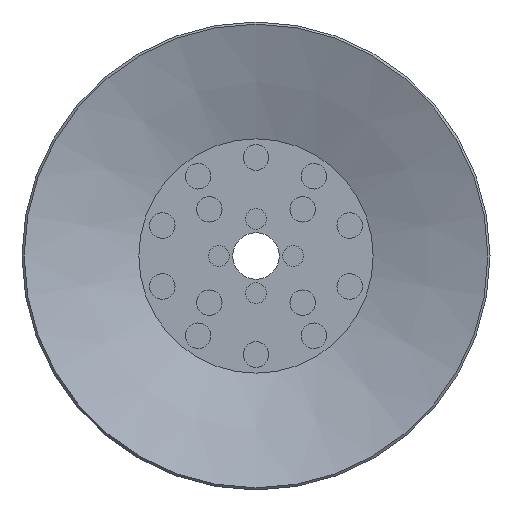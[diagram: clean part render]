
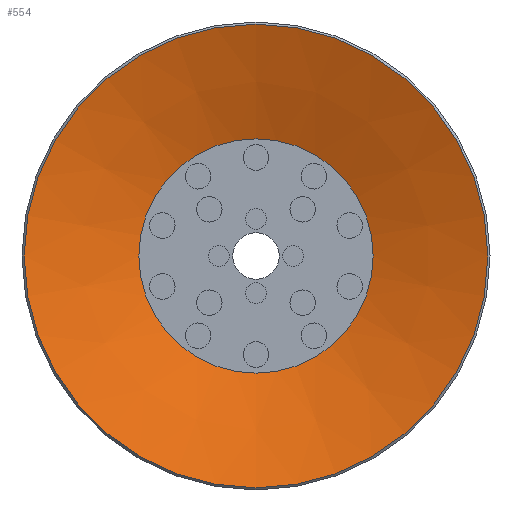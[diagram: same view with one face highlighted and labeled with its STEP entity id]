
A CAD part, front view. The second image highlights one B-rep face of the part: STEP entity #554.
In plain terms, the highlighted conical face has half-angle 70 degrees and reference radius 10 mm.
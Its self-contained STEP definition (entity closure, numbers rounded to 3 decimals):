
#554=ADVANCED_FACE('',(#850,#851),#852,.F.);
#850=FACE_BOUND('',#1255,.T.);
#851=FACE_OUTER_BOUND('',#1256,.T.);
#852=CONICAL_SURFACE('',#1257,10.0,1.222);
#1255=EDGE_LOOP('',(#2091));
#1256=EDGE_LOOP('',(#2092));
#1257=AXIS2_PLACEMENT_3D('',#2093,#2094,#2095);
#2091=ORIENTED_EDGE('',*,*,#2553,.T.);
#2092=ORIENTED_EDGE('',*,*,#2554,.F.);
#2093=CARTESIAN_POINT('',(0.0,0.,0.));
#2094=DIRECTION('',(0.0,0.,-1.0));
#2095=DIRECTION('',(0.0,1.0,0.));
#2553=EDGE_CURVE('',#2924,#2924,#2925,.T.);
#2554=EDGE_CURVE('',#2926,#2926,#2927,.T.);
#2924=VERTEX_POINT('',#3714);
#2925=CIRCLE('',#3715,5.055);
#2926=VERTEX_POINT('',#3716);
#2927=CIRCLE('',#3717,10.0);
#3714=CARTESIAN_POINT('',(0.0,-5.055,1.8));
#3715=AXIS2_PLACEMENT_3D('',#4089,#4090,#4091);
#3716=CARTESIAN_POINT('',(0.0,-10.0,0.));
#3717=AXIS2_PLACEMENT_3D('',#4092,#4093,#4094);
#4089=CARTESIAN_POINT('',(0.0,0.,1.8));
#4090=DIRECTION('',(0.0,0.,1.0));
#4091=DIRECTION('',(0.0,-1.0,0.));
#4092=CARTESIAN_POINT('',(0.0,0.,0.));
#4093=DIRECTION('',(0.0,0.,1.0));
#4094=DIRECTION('',(0.0,-1.0,0.));
